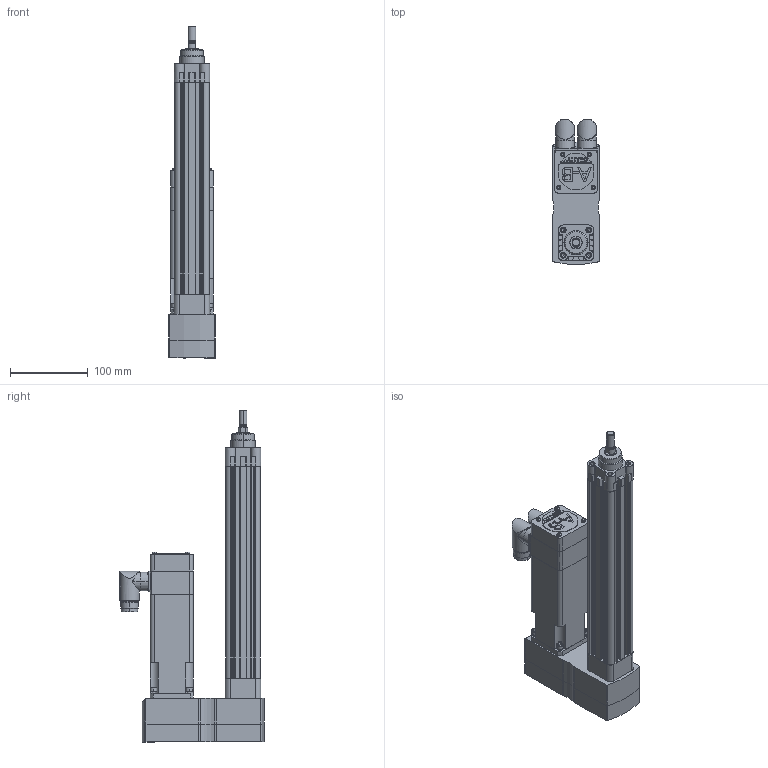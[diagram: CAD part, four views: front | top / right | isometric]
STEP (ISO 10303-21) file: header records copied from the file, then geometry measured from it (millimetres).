
FILE_DESCRIPTION (( 'STEP AP214' ), '1' );
FILE_NAME ('Rockwell Automation-MPAR-32DIA-10LEAD-MPAR-X1200E-V4B.STEP', '2011-08-30T19:40:59', ( 'sysAdmin' ), ( 'SolidWorks' ), 'SwSTEP 2.0', 'SolidWorks 2011', '' );
FILE_SCHEMA (( 'AUTOMOTIVE_DESIGN' ));
Length unit declared in the file: millimetre
Products named in the file (15): Rockwell Automation-MPAR-32DIA-10LEAD-MPAR-X1200E-V4B_MPAR-x1200x; Rockwell Automation-MPAR-32DIA-10LEAD-MPAR-X1200E-V4B_PRT0002-543120; Rockwell Automation-MPAR-32DIA-10LEAD-MPAR-X1200E-V4B_PRT0001-543120; Rockwell Automation-MPAR-32DIA-10LEAD-MPAR-X1200E-V4B_MPL-x1530F-V-X206_MPL-x1530x-xJ44AA; Rockwell Automation-MPAR-32DIA-10LEAD-MPAR-X1200E-V4B_MPL-x1530x-xJ44AA_MPL-15xx-Feedback Connector; Rockwell Automation-MPAR-32DIA-10LEAD-MPAR-X1200E-V4B_MPL-x1530x-xJ44AA_MPL-15xx-Power Connector; Rockwell Automation-MPAR-32DIA-10LEAD-MPAR-X1200E-V4B_MPL-x1530x-xJ44AA_MPL-15xx-Shaft-Key_1530-SHAFT-KEYED-BRAKE; Rockwell Automation-MPAR-32DIA-10LEAD-MPAR-X1200E-V4B_MPL-x1530x-xJ44AA_MPL-15xx-Body_1530-BRAKE; Rockwell Automation-MPAR-32DIA-10LEAD-MPAR-X1200E-V4B_627500; Rockwell Automation-MPAR-32DIA-10LEAD-MPAR-X1200E-V4B_627500_200048_2; Rockwell Automation-MPAR-32DIA-10LEAD-MPAR-X1200E-V4B_627500_223541_3; Rockwell Automation-MPAR-32DIA-10LEAD-MPAR-X1200E-V4B_627500_200671_1; Rockwell Automation-MPAR-32DIA-10LEAD-MPAR-X1200E-V4B_627500_1210151; Rockwell Automation-MPAR-32DIA-10LEAD-MPAR-X1200E-V4B_627500_1210193; Rockwell Automation-MPAR-32DIA-10LEAD-MPAR-X1200E-V4B
Assembly tree (24 placements, depth 3):
  Rockwell Automation-MPAR-32DIA-10LEAD-MPAR-X1200E-V4B
    Rockwell Automation-MPAR-32DIA-10LEAD-MPAR-X1200E-V4B_MPL-x1530F-V-X206_MPL-x1530x-xJ44AA
      Rockwell Automation-MPAR-32DIA-10LEAD-MPAR-X1200E-V4B_MPL-x1530x-xJ44AA_MPL-15xx-Body_1530-BRAKE
      Rockwell Automation-MPAR-32DIA-10LEAD-MPAR-X1200E-V4B_MPL-x1530x-xJ44AA_MPL-15xx-Shaft-Key_1530-SHAFT-KEYED-BRAKE
      Rockwell Automation-MPAR-32DIA-10LEAD-MPAR-X1200E-V4B_MPL-x1530x-xJ44AA_MPL-15xx-Power Connector
      Rockwell Automation-MPAR-32DIA-10LEAD-MPAR-X1200E-V4B_MPL-x1530x-xJ44AA_MPL-15xx-Feedback Connector
    Rockwell Automation-MPAR-32DIA-10LEAD-MPAR-X1200E-V4B_MPAR-x1200x
      Rockwell Automation-MPAR-32DIA-10LEAD-MPAR-X1200E-V4B_PRT0001-543120
      Rockwell Automation-MPAR-32DIA-10LEAD-MPAR-X1200E-V4B_PRT0002-543120
    Rockwell Automation-MPAR-32DIA-10LEAD-MPAR-X1200E-V4B_627500
      Rockwell Automation-MPAR-32DIA-10LEAD-MPAR-X1200E-V4B_627500_200048_2  x5
      Rockwell Automation-MPAR-32DIA-10LEAD-MPAR-X1200E-V4B_627500_200671_1  x4
      Rockwell Automation-MPAR-32DIA-10LEAD-MPAR-X1200E-V4B_627500_223541_3  x4
      Rockwell Automation-MPAR-32DIA-10LEAD-MPAR-X1200E-V4B_627500_1210151
      Rockwell Automation-MPAR-32DIA-10LEAD-MPAR-X1200E-V4B_627500_1210193
Bounding box: 60 x 185.2 x 426 mm (x, y, z)
Volume: 1168616.8 mm3; surface area: 328437.8 mm2
Topology: 25 solids, 25 shells, 1679 faces, 4090 edges, 2580 vertices
Faces by surface type: plane 677, cylinder 586, cone 254, bspline 114, torus 48
Entity records: 45056 total; most frequent: CARTESIAN_POINT 10388, DIRECTION 7364, ORIENTED_EDGE 6796, EDGE_CURVE 3398, AXIS2_PLACEMENT_3D 2759, VERTEX_POINT 2160, VECTOR 1846, LINE 1846
